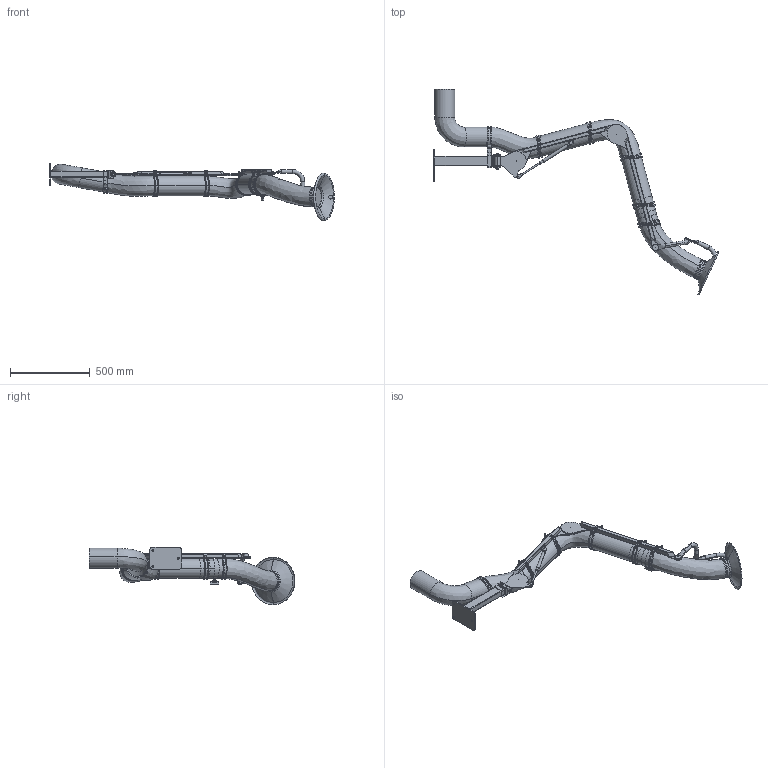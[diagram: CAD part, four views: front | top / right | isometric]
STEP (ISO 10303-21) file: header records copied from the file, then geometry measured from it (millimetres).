
FILE_DESCRIPTION((''),'2;1');
FILE_NAME('PSR_2000-125_D_EXC','2022-10-04T13:18:05',('Tomas Bellgran'),(''),'CREO PARAMETRIC BY PTC INC, 2018260','CREO PARAMETRIC BY PTC INC, 2018260','');
FILE_SCHEMA(('AUTOMOTIVE_DESIGN { 1 0 10303 214 1 1 1 1 }'));
Length unit declared in the file: millimetre
Products named in the file (44): 141554; 141580; 141581; 122701; 141512; 141556; 141582; 141587; 141522; 121391; 131150; 139381; 131151; 131171; 144356; 141589; 134343_AF0; G_P136_WELD-REF; 141590; 122717_LIGHT; 120127_COMPL_LIGHT; 130315; ROD_STAB_8-160-REF; 131095; 130320_AF30; 131145; 139635; 139656; 139614; 139630; 131206; 122291; 122295; 131216; 131219; 131221; 131201; 121061; 121072; 124460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
Assembly tree (59 placements, depth 4):
  PSR_2000-125_D_EXC
    141512
      141554
      141580
      141581
      122701
    141522
      141556
      141582
      141587
    121391  x4
    131150
    131171
      139381
      131151
    144356  x2
    141590
      141589
      134343_AF0
      G_P136_WELD-REF
    122717_LIGHT
    120127_COMPL_LIGHT
    130320_AF30
      130315
      ROD_STAB_8-160-REF
      131095  x2
    131145  x2
    139630
      139635  x3
      139656
      139614
    131201
      131206
      122295
        122291
      131221
        131216
        131219
    121061
    121072
    124460  x5
    107522-11  x5
    121000_LIGHT
    107522-20
Bounding box: 1785.47 x 1289.27 x 362.95 mm (x, y, z)
Volume: 33691174.8 mm3; surface area: 1937311 mm2
Topology: 50 solids, 50 shells, 1165 faces, 2766 edges, 1705 vertices
Faces by surface type: plane 419, cylinder 358, bspline 222, torus 72, cone 56, extrusion 23, revolution 13, sphere 2
Entity records: 45024 total; most frequent: CARTESIAN_POINT 16223, DIRECTION 3571, ORIENTED_EDGE 3372, PRESENTATION_STYLE_ASSIGNMENT 2383, STYLED_ITEM 2356, CURVE_STYLE 1714, EDGE_CURVE 1686, AXIS2_PLACEMENT_3D 1395
